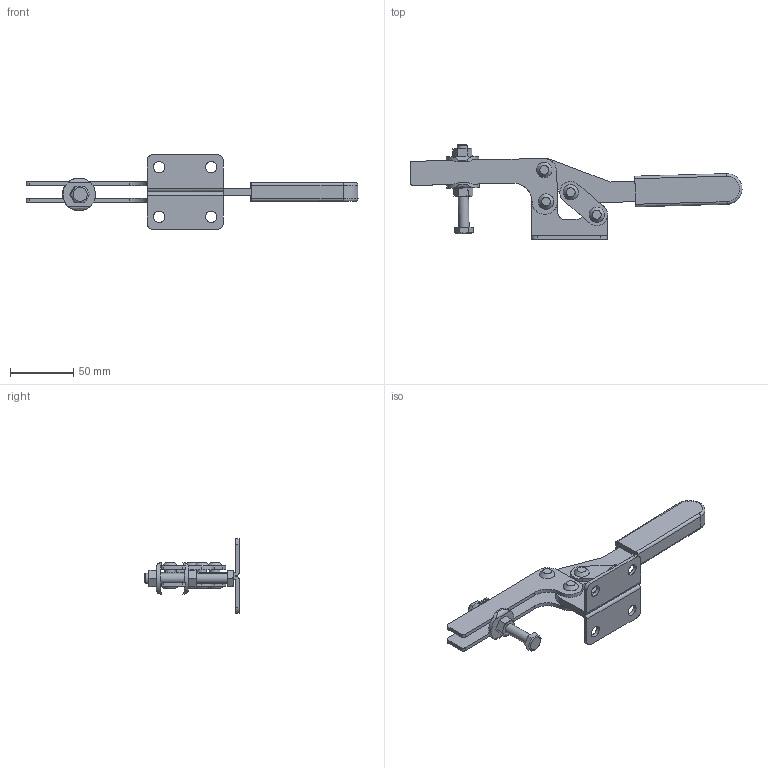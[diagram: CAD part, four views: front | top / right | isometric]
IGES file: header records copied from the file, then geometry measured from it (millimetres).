
Global section: file name: No.43A; native system: Autodesk Inventor 2020; preprocessor: unknown; author: y-takahashi; date: 20211202.164712; units: millimetre
Bounding box: 261.62 x 74.37 x 59 mm (x, y, z)
Volume: 84988.8 mm3; surface area: 52405 mm2
Topology: 16 solids, 16 shells, 226 faces, 551 edges, 371 vertices
Faces by surface type: bspline 226
